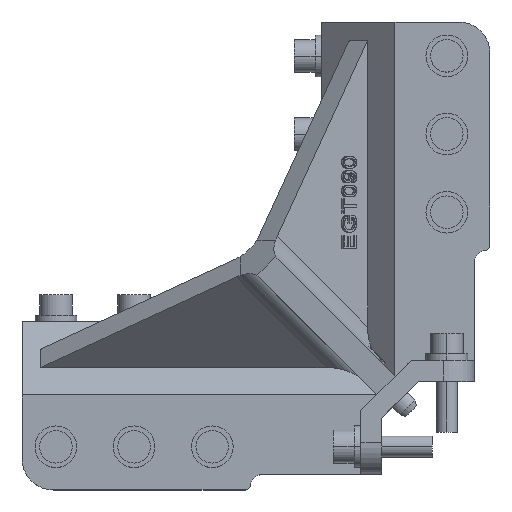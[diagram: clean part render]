
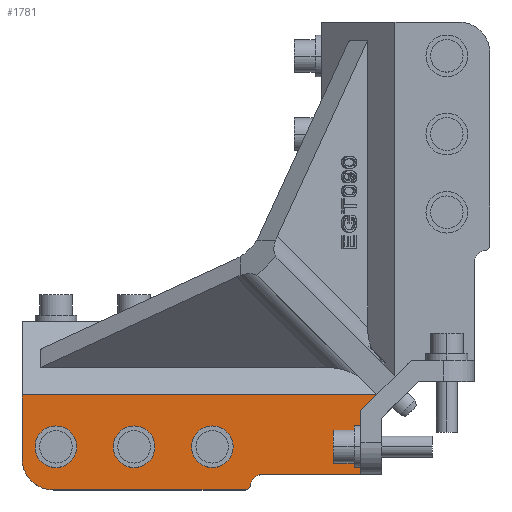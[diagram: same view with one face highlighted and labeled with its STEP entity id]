
A CAD part, top view. The second image highlights one B-rep face of the part: STEP entity #1781.
In plain terms, the highlighted planar face has unit normal (0, 0, 1).
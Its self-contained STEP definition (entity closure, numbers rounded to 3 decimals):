
#403=CARTESIAN_POINT('Axis2P3D Location',(0.,-16.569,48.)) ;
#564=CARTESIAN_POINT('Vertex',(-163.,-4.569,48.)) ;
#567=CARTESIAN_POINT('Line Origine',(-163.,7.657,48.)) ;
#571=CARTESIAN_POINT('Vertex',(-163.,19.882,48.)) ;
#1083=CARTESIAN_POINT('Vertex',(-33.,-10.569,48.)) ;
#1086=CARTESIAN_POINT('Line Origine',(-51.716,-10.569,48.)) ;
#1090=CARTESIAN_POINT('Vertex',(-70.431,-10.569,48.)) ;
#1117=CARTESIAN_POINT('Axis2P3D Location',(-70.431,-15.569,48.)) ;
#1121=CARTESIAN_POINT('Vertex',(-75.38,-14.854,48.)) ;
#1145=CARTESIAN_POINT('Vertex',(-77.36,-16.569,48.)) ;
#1148=CARTESIAN_POINT('Axis2P3D Location',(-77.36,-14.569,48.)) ;
#1165=CARTESIAN_POINT('Line Origine',(-114.18,-16.569,48.)) ;
#1169=CARTESIAN_POINT('Vertex',(-151.,-16.569,48.)) ;
#1189=CARTESIAN_POINT('Axis2P3D Location',(-151.,-4.569,48.)) ;
#1312=CARTESIAN_POINT('Vertex',(-154.169,2.277,48.)) ;
#1316=CARTESIAN_POINT('Control Point',(-145.831,-2.277,48.)) ;
#1317=CARTESIAN_POINT('Control Point',(-146.189,-2.932,48.)) ;
#1318=CARTESIAN_POINT('Control Point',(-146.675,-3.517,48.)) ;
#1319=CARTESIAN_POINT('Control Point',(-147.272,-3.997,48.)) ;
#1320=CARTESIAN_POINT('Control Point',(-148.621,-4.698,48.)) ;
#1321=CARTESIAN_POINT('Control Point',(-150.136,-4.837,48.)) ;
#1322=CARTESIAN_POINT('Control Point',(-150.897,-4.755,48.)) ;
#1323=CARTESIAN_POINT('Control Point',(-152.348,-4.297,48.)) ;
#1324=CARTESIAN_POINT('Control Point',(-153.517,-3.325,48.)) ;
#1325=CARTESIAN_POINT('Control Point',(-153.997,-2.728,48.)) ;
#1326=CARTESIAN_POINT('Control Point',(-154.698,-1.379,48.)) ;
#1327=CARTESIAN_POINT('Control Point',(-154.837,0.136,48.)) ;
#1328=CARTESIAN_POINT('Control Point',(-154.755,0.897,48.)) ;
#1329=CARTESIAN_POINT('Control Point',(-154.526,1.622,48.)) ;
#1330=CARTESIAN_POINT('Control Point',(-154.169,2.277,48.)) ;
#1331=CARTESIAN_POINT('Vertex',(-145.831,-2.277,48.)) ;
#1351=CARTESIAN_POINT('Axis2P3D Location',(-150.,0.,48.)) ;
#1372=CARTESIAN_POINT('Vertex',(-124.169,2.277,48.)) ;
#1376=CARTESIAN_POINT('Control Point',(-115.831,-2.277,48.)) ;
#1377=CARTESIAN_POINT('Control Point',(-116.189,-2.932,48.)) ;
#1378=CARTESIAN_POINT('Control Point',(-116.675,-3.517,48.)) ;
#1379=CARTESIAN_POINT('Control Point',(-117.272,-3.997,48.)) ;
#1380=CARTESIAN_POINT('Control Point',(-118.621,-4.698,48.)) ;
#1381=CARTESIAN_POINT('Control Point',(-120.136,-4.837,48.)) ;
#1382=CARTESIAN_POINT('Control Point',(-120.897,-4.755,48.)) ;
#1383=CARTESIAN_POINT('Control Point',(-122.348,-4.297,48.)) ;
#1384=CARTESIAN_POINT('Control Point',(-123.517,-3.325,48.)) ;
#1385=CARTESIAN_POINT('Control Point',(-123.997,-2.728,48.)) ;
#1386=CARTESIAN_POINT('Control Point',(-124.698,-1.379,48.)) ;
#1387=CARTESIAN_POINT('Control Point',(-124.837,0.136,48.)) ;
#1388=CARTESIAN_POINT('Control Point',(-124.755,0.897,48.)) ;
#1389=CARTESIAN_POINT('Control Point',(-124.526,1.622,48.)) ;
#1390=CARTESIAN_POINT('Control Point',(-124.169,2.277,48.)) ;
#1391=CARTESIAN_POINT('Vertex',(-115.831,-2.277,48.)) ;
#1411=CARTESIAN_POINT('Axis2P3D Location',(-120.,0.,48.)) ;
#1432=CARTESIAN_POINT('Vertex',(-94.169,2.277,48.)) ;
#1436=CARTESIAN_POINT('Control Point',(-85.831,-2.277,48.)) ;
#1437=CARTESIAN_POINT('Control Point',(-86.189,-2.932,48.)) ;
#1438=CARTESIAN_POINT('Control Point',(-86.675,-3.517,48.)) ;
#1439=CARTESIAN_POINT('Control Point',(-87.272,-3.997,48.)) ;
#1440=CARTESIAN_POINT('Control Point',(-88.621,-4.698,48.)) ;
#1441=CARTESIAN_POINT('Control Point',(-90.136,-4.837,48.)) ;
#1442=CARTESIAN_POINT('Control Point',(-90.897,-4.755,48.)) ;
#1443=CARTESIAN_POINT('Control Point',(-92.348,-4.297,48.)) ;
#1444=CARTESIAN_POINT('Control Point',(-93.517,-3.325,48.)) ;
#1445=CARTESIAN_POINT('Control Point',(-93.997,-2.728,48.)) ;
#1446=CARTESIAN_POINT('Control Point',(-94.698,-1.379,48.)) ;
#1447=CARTESIAN_POINT('Control Point',(-94.837,0.136,48.)) ;
#1448=CARTESIAN_POINT('Control Point',(-94.755,0.897,48.)) ;
#1449=CARTESIAN_POINT('Control Point',(-94.526,1.622,48.)) ;
#1450=CARTESIAN_POINT('Control Point',(-94.169,2.277,48.)) ;
#1451=CARTESIAN_POINT('Vertex',(-85.831,-2.277,48.)) ;
#1471=CARTESIAN_POINT('Axis2P3D Location',(-90.,0.,48.)) ;
#1604=CARTESIAN_POINT('Vertex',(-26.87,19.799,48.)) ;
#1607=CARTESIAN_POINT('Line Origine',(-29.935,16.734,48.)) ;
#1611=CARTESIAN_POINT('Vertex',(-33.,13.669,48.)) ;
#1740=CARTESIAN_POINT('Line Origine',(-33.,1.55,48.)) ;
#1745=CARTESIAN_POINT('Line Origine',(-26.912,19.841,48.)) ;
#1749=CARTESIAN_POINT('Vertex',(-26.953,19.882,48.)) ;
#1752=CARTESIAN_POINT('Line Origine',(-94.977,19.882,48.)) ;
#404=DIRECTION('Axis2P3D Direction',(0.,-0.,1.)) ;
#405=DIRECTION('Axis2P3D XDirection',(0.,1.,0.)) ;
#568=DIRECTION('Vector Direction',(0.,1.,0.)) ;
#1087=DIRECTION('Vector Direction',(-1.,0.,0.)) ;
#1118=DIRECTION('Axis2P3D Direction',(0.,0.,-1.)) ;
#1149=DIRECTION('Axis2P3D Direction',(0.,-0.,-1.)) ;
#1166=DIRECTION('Vector Direction',(-1.,0.,0.)) ;
#1190=DIRECTION('Axis2P3D Direction',(0.,0.,1.)) ;
#1352=DIRECTION('Axis2P3D Direction',(0.,0.,-1.)) ;
#1412=DIRECTION('Axis2P3D Direction',(0.,0.,-1.)) ;
#1472=DIRECTION('Axis2P3D Direction',(0.,0.,-1.)) ;
#1608=DIRECTION('Vector Direction',(-0.707,-0.707,0.)) ;
#1741=DIRECTION('Vector Direction',(0.,-1.,0.)) ;
#1746=DIRECTION('Vector Direction',(0.707,-0.707,0.)) ;
#1753=DIRECTION('Vector Direction',(-1.,0.,0.)) ;
#406=AXIS2_PLACEMENT_3D('Plane Axis2P3D',#403,#404,#405) ;
#1119=AXIS2_PLACEMENT_3D('Circle Axis2P3D',#1117,#1118,$) ;
#1150=AXIS2_PLACEMENT_3D('Circle Axis2P3D',#1148,#1149,$) ;
#1191=AXIS2_PLACEMENT_3D('Circle Axis2P3D',#1189,#1190,$) ;
#1353=AXIS2_PLACEMENT_3D('Circle Axis2P3D',#1351,#1352,$) ;
#1413=AXIS2_PLACEMENT_3D('Circle Axis2P3D',#1411,#1412,$) ;
#1473=AXIS2_PLACEMENT_3D('Circle Axis2P3D',#1471,#1472,$) ;
#1758=ORIENTED_EDGE('',*,*,#1171,.F.) ;
#1759=ORIENTED_EDGE('',*,*,#1152,.T.) ;
#1760=ORIENTED_EDGE('',*,*,#1123,.F.) ;
#1761=ORIENTED_EDGE('',*,*,#1092,.F.) ;
#1762=ORIENTED_EDGE('',*,*,#1744,.F.) ;
#1763=ORIENTED_EDGE('',*,*,#1613,.F.) ;
#1764=ORIENTED_EDGE('',*,*,#1751,.F.) ;
#1765=ORIENTED_EDGE('',*,*,#1756,.T.) ;
#1766=ORIENTED_EDGE('',*,*,#573,.T.) ;
#1767=ORIENTED_EDGE('',*,*,#1193,.F.) ;
#1770=ORIENTED_EDGE('',*,*,#1355,.F.) ;
#1771=ORIENTED_EDGE('',*,*,#1333,.F.) ;
#1774=ORIENTED_EDGE('',*,*,#1415,.F.) ;
#1775=ORIENTED_EDGE('',*,*,#1393,.F.) ;
#1778=ORIENTED_EDGE('',*,*,#1475,.F.) ;
#1779=ORIENTED_EDGE('',*,*,#1453,.F.) ;
#1772=FACE_BOUND('',#1769,.T.) ;
#1776=FACE_BOUND('',#1773,.T.) ;
#1780=FACE_BOUND('',#1777,.T.) ;
#569=VECTOR('Line Direction',#568,1.) ;
#1088=VECTOR('Line Direction',#1087,1.) ;
#1167=VECTOR('Line Direction',#1166,1.) ;
#1609=VECTOR('Line Direction',#1608,1.) ;
#1742=VECTOR('Line Direction',#1741,1.) ;
#1747=VECTOR('Line Direction',#1746,1.) ;
#1754=VECTOR('Line Direction',#1753,1.) ;
#1781=ADVANCED_FACE('EGT090_3FACH_SW80_ECKVERBINDUNG',(#1768,#1772,#1776,#1780),#407,.T.) ;
#1315=B_SPLINE_CURVE_WITH_KNOTS('',5,(#1316,#1317,#1318,#1319,#1320,#1321,#1322,#1323,#1324,#1325,#1326,#1327,#1328,#1329,#1330),.UNSPECIFIED.,.F.,.U.,(6,3,3,3,6),(-7.461,-3.731,0.,3.731,7.461),.UNSPECIFIED.) ;
#1375=B_SPLINE_CURVE_WITH_KNOTS('',5,(#1376,#1377,#1378,#1379,#1380,#1381,#1382,#1383,#1384,#1385,#1386,#1387,#1388,#1389,#1390),.UNSPECIFIED.,.F.,.U.,(6,3,3,3,6),(-7.461,-3.731,0.,3.731,7.461),.UNSPECIFIED.) ;
#1435=B_SPLINE_CURVE_WITH_KNOTS('',5,(#1436,#1437,#1438,#1439,#1440,#1441,#1442,#1443,#1444,#1445,#1446,#1447,#1448,#1449,#1450),.UNSPECIFIED.,.F.,.U.,(6,3,3,3,6),(-7.461,-3.731,0.,3.731,7.461),.UNSPECIFIED.) ;
#1120=CIRCLE('generated circle',#1119,5.) ;
#1151=CIRCLE('generated circle',#1150,2.) ;
#1192=CIRCLE('generated circle',#1191,12.) ;
#1354=CIRCLE('generated circle',#1353,4.75) ;
#1414=CIRCLE('generated circle',#1413,4.75) ;
#1474=CIRCLE('generated circle',#1473,4.75) ;
#573=EDGE_CURVE('',#572,#565,#570,.F.) ;
#1092=EDGE_CURVE('',#1084,#1091,#1089,.T.) ;
#1123=EDGE_CURVE('',#1091,#1122,#1120,.F.) ;
#1152=EDGE_CURVE('',#1146,#1122,#1151,.F.) ;
#1171=EDGE_CURVE('',#1146,#1170,#1168,.T.) ;
#1193=EDGE_CURVE('',#1170,#565,#1192,.F.) ;
#1333=EDGE_CURVE('',#1313,#1332,#1315,.F.) ;
#1355=EDGE_CURVE('',#1332,#1313,#1354,.F.) ;
#1393=EDGE_CURVE('',#1373,#1392,#1375,.F.) ;
#1415=EDGE_CURVE('',#1392,#1373,#1414,.F.) ;
#1453=EDGE_CURVE('',#1433,#1452,#1435,.F.) ;
#1475=EDGE_CURVE('',#1452,#1433,#1474,.F.) ;
#1613=EDGE_CURVE('',#1605,#1612,#1610,.T.) ;
#1744=EDGE_CURVE('',#1612,#1084,#1743,.T.) ;
#1751=EDGE_CURVE('',#1750,#1605,#1748,.T.) ;
#1756=EDGE_CURVE('',#1750,#572,#1755,.T.) ;
#1757=EDGE_LOOP('',(#1758,#1759,#1760,#1761,#1762,#1763,#1764,#1765,#1766,#1767)) ;
#1769=EDGE_LOOP('',(#1770,#1771)) ;
#1773=EDGE_LOOP('',(#1774,#1775)) ;
#1777=EDGE_LOOP('',(#1778,#1779)) ;
#1768=FACE_OUTER_BOUND('',#1757,.T.) ;
#570=LINE('Line',#567,#569) ;
#1089=LINE('Line',#1086,#1088) ;
#1168=LINE('Line',#1165,#1167) ;
#1610=LINE('Line',#1607,#1609) ;
#1743=LINE('Line',#1740,#1742) ;
#1748=LINE('Line',#1745,#1747) ;
#1755=LINE('Line',#1752,#1754) ;
#407=PLANE('',#406) ;
#565=VERTEX_POINT('',#564) ;
#572=VERTEX_POINT('',#571) ;
#1084=VERTEX_POINT('',#1083) ;
#1091=VERTEX_POINT('',#1090) ;
#1122=VERTEX_POINT('',#1121) ;
#1146=VERTEX_POINT('',#1145) ;
#1170=VERTEX_POINT('',#1169) ;
#1313=VERTEX_POINT('',#1312) ;
#1332=VERTEX_POINT('',#1331) ;
#1373=VERTEX_POINT('',#1372) ;
#1392=VERTEX_POINT('',#1391) ;
#1433=VERTEX_POINT('',#1432) ;
#1452=VERTEX_POINT('',#1451) ;
#1605=VERTEX_POINT('',#1604) ;
#1612=VERTEX_POINT('',#1611) ;
#1750=VERTEX_POINT('',#1749) ;
